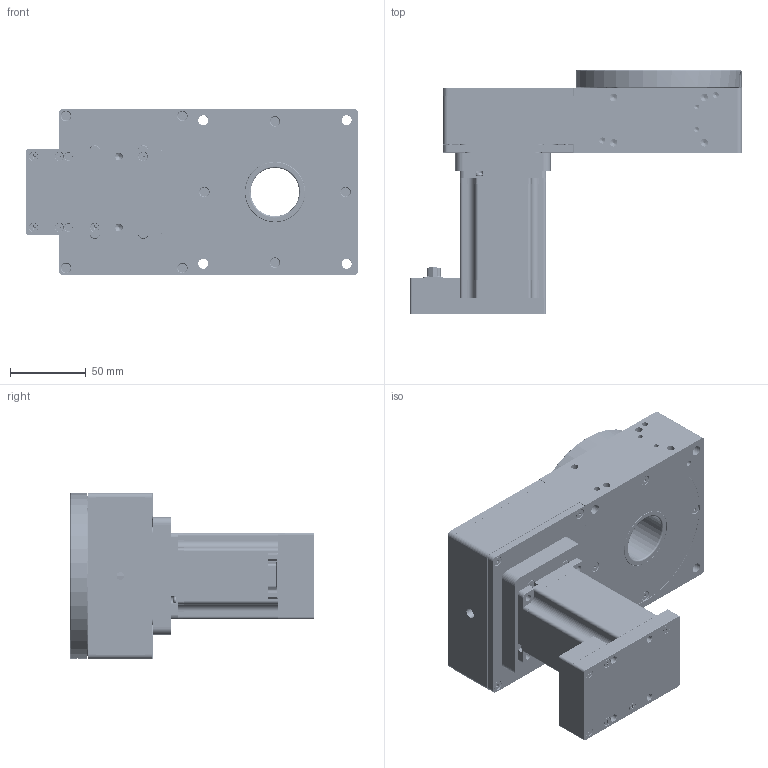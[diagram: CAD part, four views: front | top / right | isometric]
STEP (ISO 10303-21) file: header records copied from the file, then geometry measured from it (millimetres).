
FILE_DESCRIPTION (( 'STEP AP203' ), '1' );
FILE_NAME ('MDT360110-QN-MU-S.STEP', '2022-04-19T14:21:42', ( '' ), ( '' ), 'SwSTEP 2.0', 'SolidWorks 2019', '' );
FILE_SCHEMA (( 'CONFIG_CONTROL_DESIGN' ));
Products named in the file (1): MDT360110-QN-MU-S
Bounding box: 219.82 x 162 x 110 mm (x, y, z)
Volume: 1114511.1 mm3; surface area: 410963.1 mm2
Topology: 119 solids, 125 shells, 5050 faces, 12319 edges, 7655 vertices
Faces by surface type: cylinder 2243, plane 1554, cone 791, torus 344, bspline 118
Entity records: 154265 total; most frequent: CARTESIAN_POINT 33422, DIRECTION 26956, ORIENTED_EDGE 24206, EDGE_CURVE 12103, AXIS2_PLACEMENT_3D 10793, VERTEX_POINT 7655, CIRCLE 5860, EDGE_LOOP 5700
